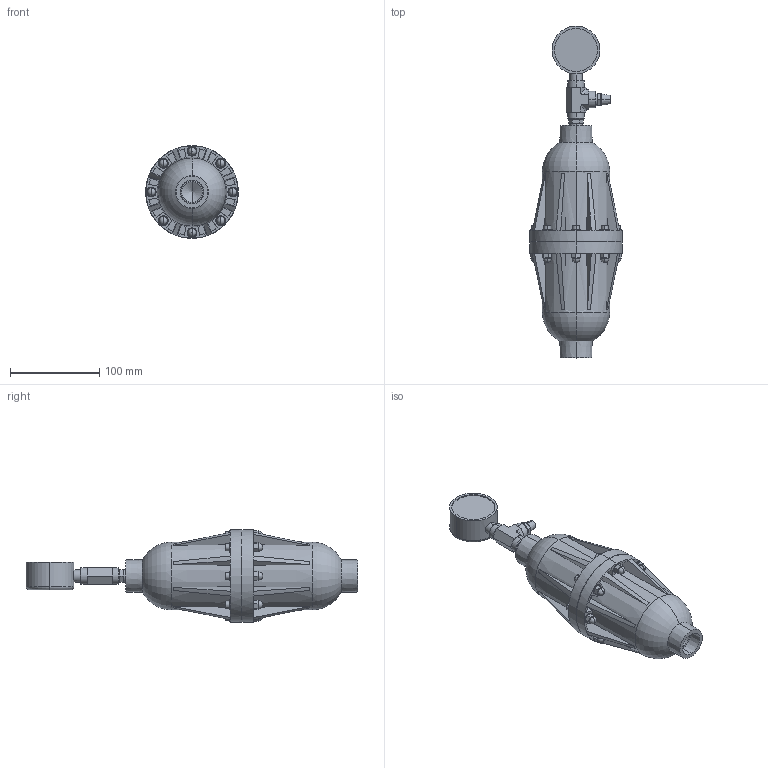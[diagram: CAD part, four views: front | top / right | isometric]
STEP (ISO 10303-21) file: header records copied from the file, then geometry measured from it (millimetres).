
FILE_DESCRIPTION (( 'STEP AP203' ), '1' );
FILE_NAME ('PD0023.STEP', '2016-01-07T10:49:24', ( '' ), ( '' ), 'SwSTEP 2.0', 'SolidWorks 2014', '' );
FILE_SCHEMA (( 'CONFIG_CONTROL_DESIGN' ));
Length unit declared in the file: inch
Products named in the file (2): PD0023
Bounding box: 104.14 x 372.87 x 104.14 mm (x, y, z)
Volume: 1195895.5 mm3; surface area: 116082.6 mm2
Topology: 1 solids, 1 shells, 486 faces, 1187 edges, 767 vertices
Faces by surface type: plane 300, cylinder 92, cone 72, torus 22
Entity records: 14670 total; most frequent: CARTESIAN_POINT 3026, DIRECTION 2405, ORIENTED_EDGE 2370, EDGE_CURVE 1185, AXIS2_PLACEMENT_3D 900, VERTEX_POINT 767, VECTOR 605, LINE 605
